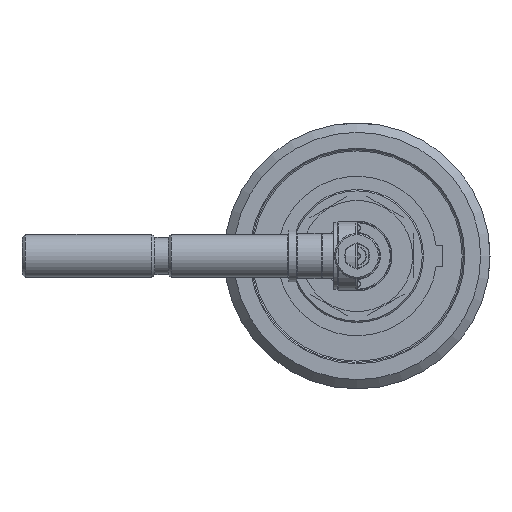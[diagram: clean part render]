
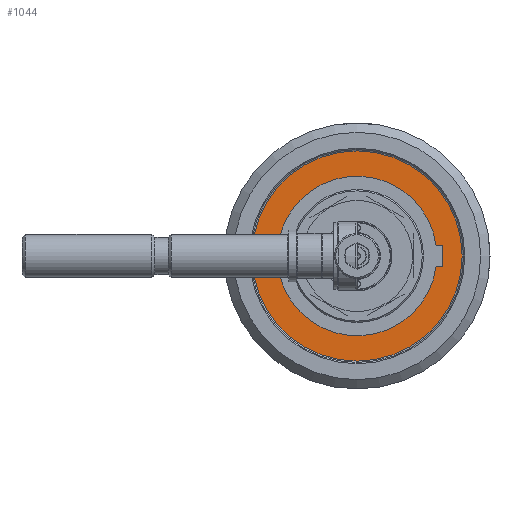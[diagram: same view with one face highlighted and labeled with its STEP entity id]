
A CAD part, left-side view. The second image highlights one B-rep face of the part: STEP entity #1044.
In plain terms, the highlighted planar face has unit normal (-1, 0, 0).
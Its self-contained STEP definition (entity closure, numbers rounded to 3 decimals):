
#1044 = ADVANCED_FACE( '', ( #1894, #1895 ), #1896, .T. );
#1894 = FACE_BOUND( '', #2492, .T. );
#1895 = FACE_OUTER_BOUND( '', #2493, .T. );
#1896 = PLANE( '', #2494 );
#2492 = EDGE_LOOP( '', ( #3631, #3632, #3633, #3634 ) );
#2493 = EDGE_LOOP( '', ( #3635 ) );
#2494 = AXIS2_PLACEMENT_3D( '', #3636, #3637, #3638 );
#3631 = ORIENTED_EDGE( '', *, *, #4615, .F. );
#3632 = ORIENTED_EDGE( '', *, *, #4620, .F. );
#3633 = ORIENTED_EDGE( '', *, *, #4621, .F. );
#3634 = ORIENTED_EDGE( '', *, *, #4618, .F. );
#3635 = ORIENTED_EDGE( '', *, *, #4622, .T. );
#3636 = CARTESIAN_POINT( '', ( 22., 0., 60. ) );
#3637 = DIRECTION( '', ( -1., 0., 0. ) );
#3638 = DIRECTION( '', ( 0., 0., 1. ) );
#4615 = EDGE_CURVE( '', #5224, #5226, #5227, .T. );
#4618 = EDGE_CURVE( '', #5226, #5231, #5232, .T. );
#4620 = EDGE_CURVE( '', #5234, #5224, #5235, .T. );
#4621 = EDGE_CURVE( '', #5231, #5234, #5236, .T. );
#4622 = EDGE_CURVE( '', #5237, #5237, #5238, .T. );
#5224 = VERTEX_POINT( '', #6139 );
#5226 = VERTEX_POINT( '', #6142 );
#5227 = LINE( '', #6143, #6144 );
#5231 = VERTEX_POINT( '', #6150 );
#5232 = LINE( '', #6151, #6152 );
#5234 = VERTEX_POINT( '', #6155 );
#5235 = CIRCLE( '', #6156, 60. );
#5236 = LINE( '', #6157, #6158 );
#5237 = VERTEX_POINT( '', #6159 );
#5238 = CIRCLE( '', #6160, 79.05 );
#6139 = CARTESIAN_POINT( '', ( 22., -59.464, -8. ) );
#6142 = CARTESIAN_POINT( '', ( 22., -64.3, -8. ) );
#6143 = CARTESIAN_POINT( '', ( 22., -44.3, -8. ) );
#6144 = VECTOR( '', #6830, 1000. );
#6150 = CARTESIAN_POINT( '', ( 22., -64.3, 8. ) );
#6151 = CARTESIAN_POINT( '', ( 22., -64.3, -8. ) );
#6152 = VECTOR( '', #6833, 1000. );
#6155 = CARTESIAN_POINT( '', ( 22., -59.464, 8. ) );
#6156 = AXIS2_PLACEMENT_3D( '', #6835, #6836, #6837 );
#6157 = CARTESIAN_POINT( '', ( 22., -64.3, 8. ) );
#6158 = VECTOR( '', #6838, 1000. );
#6159 = CARTESIAN_POINT( '', ( 22., 0., 79.05 ) );
#6160 = AXIS2_PLACEMENT_3D( '', #6839, #6840, #6841 );
#6830 = DIRECTION( '', ( 0., -1., 0. ) );
#6833 = DIRECTION( '', ( 0., 0., 1. ) );
#6835 = CARTESIAN_POINT( '', ( 22., 0., 0. ) );
#6836 = DIRECTION( '', ( -1., 0., 0. ) );
#6837 = DIRECTION( '', ( 0., 0., 1. ) );
#6838 = DIRECTION( '', ( 0., 1., 0. ) );
#6839 = CARTESIAN_POINT( '', ( 22., 0., 0. ) );
#6840 = DIRECTION( '', ( -1., 0., 0. ) );
#6841 = DIRECTION( '', ( 0., 0., 1. ) );
